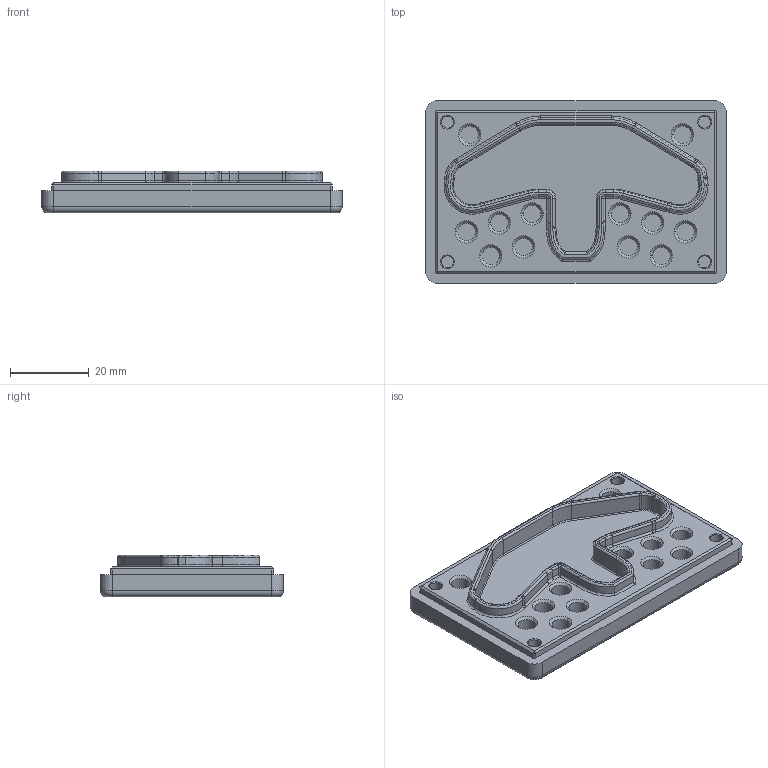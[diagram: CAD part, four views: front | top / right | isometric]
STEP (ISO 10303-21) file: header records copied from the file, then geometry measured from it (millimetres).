
FILE_DESCRIPTION (( 'STEP AP214' ), '1' );
FILE_NAME ('Case Bottom.STEP', '2023-02-12T19:01:17', ( '' ), ( '' ), 'SwSTEP 2.0', 'SolidWorks 2022', '' );
FILE_SCHEMA (( 'AUTOMOTIVE_DESIGN' ));
Length unit declared in the file: millimetre
Products named in the file (1): Case Bottom
Bounding box: 76.42 x 46.5 x 10.6 mm (x, y, z)
Volume: 22859.5 mm3; surface area: 11195.2 mm2
Topology: 1 solids, 1 shells, 305 faces, 688 edges, 398 vertices
Faces by surface type: cylinder 128, torus 66, plane 61, cone 36, bspline 14
Entity records: 9327 total; most frequent: CARTESIAN_POINT 2487, DIRECTION 1536, ORIENTED_EDGE 1364, EDGE_CURVE 682, AXIS2_PLACEMENT_3D 627, VERTEX_POINT 398, CIRCLE 335, EDGE_LOOP 324
